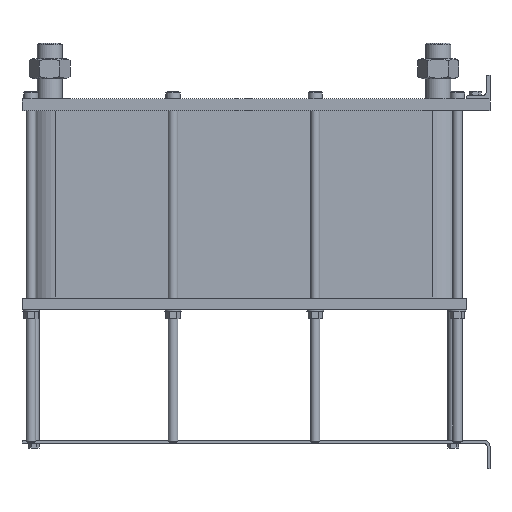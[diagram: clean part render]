
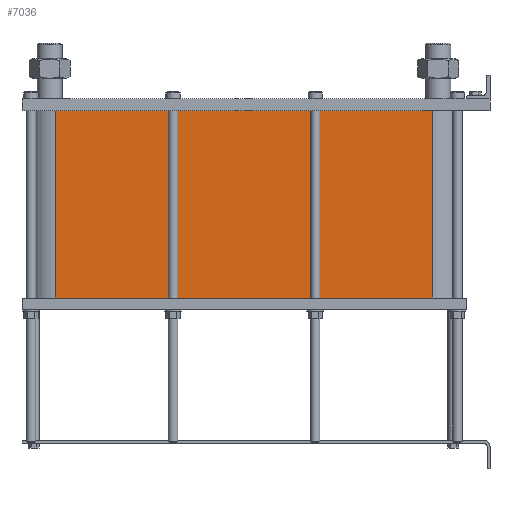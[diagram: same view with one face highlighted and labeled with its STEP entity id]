
A CAD part, left-side view. The second image highlights one B-rep face of the part: STEP entity #7036.
In plain terms, the highlighted planar face has unit normal (-1, 0, 0).
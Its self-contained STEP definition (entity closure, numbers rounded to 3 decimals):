
#999=LINE('',#15640,#1553);
#1031=LINE('',#15723,#1585);
#1032=LINE('',#15726,#1586);
#1033=LINE('',#15727,#1587);
#1553=VECTOR('',#9658,10.);
#1585=VECTOR('',#9736,10.);
#1586=VECTOR('',#9741,10.);
#1587=VECTOR('',#9742,10.);
#2117=FACE_OUTER_BOUND('',#2671,.T.);
#2671=EDGE_LOOP('',(#6246,#6247,#6248,#6249));
#3527=VERTEX_POINT('',#15634);
#3529=VERTEX_POINT('',#15638);
#3556=VERTEX_POINT('',#15720);
#3557=VERTEX_POINT('',#15722);
#4425=EDGE_CURVE('',#3529,#3527,#999,.T.);
#4466=EDGE_CURVE('',#3557,#3556,#1031,.T.);
#4468=EDGE_CURVE('',#3527,#3556,#1032,.T.);
#4469=EDGE_CURVE('',#3557,#3529,#1033,.T.);
#6246=ORIENTED_EDGE('',*,*,#4468,.F.);
#6247=ORIENTED_EDGE('',*,*,#4425,.F.);
#6248=ORIENTED_EDGE('',*,*,#4469,.F.);
#6249=ORIENTED_EDGE('',*,*,#4466,.T.);
#6608=PLANE('',#7812);
#7036=ADVANCED_FACE('',(#2117),#6608,.T.);
#7812=AXIS2_PLACEMENT_3D('',#15725,#9739,#9740);
#9658=DIRECTION('',(0.,0.,-1.));
#9736=DIRECTION('',(0.,0.,-1.));
#9739=DIRECTION('center_axis',(-1.,0.,0.));
#9740=DIRECTION('ref_axis',(0.,1.,0.));
#9741=DIRECTION('',(0.,1.,0.));
#9742=DIRECTION('',(0.,-1.,0.));
#15634=CARTESIAN_POINT('',(-72.,97.5,-316.2));
#15638=CARTESIAN_POINT('',(-72.,97.5,0.));
#15640=CARTESIAN_POINT('',(-72.,97.5,0.));
#15720=CARTESIAN_POINT('',(-72.,733.5,-316.2));
#15722=CARTESIAN_POINT('',(-72.,733.5,0.));
#15723=CARTESIAN_POINT('',(-72.,733.5,0.));
#15725=CARTESIAN_POINT('Origin',(-72.,97.5,0.));
#15726=CARTESIAN_POINT('',(-72.,256.5,-316.2));
#15727=CARTESIAN_POINT('',(-72.,733.5,0.));
